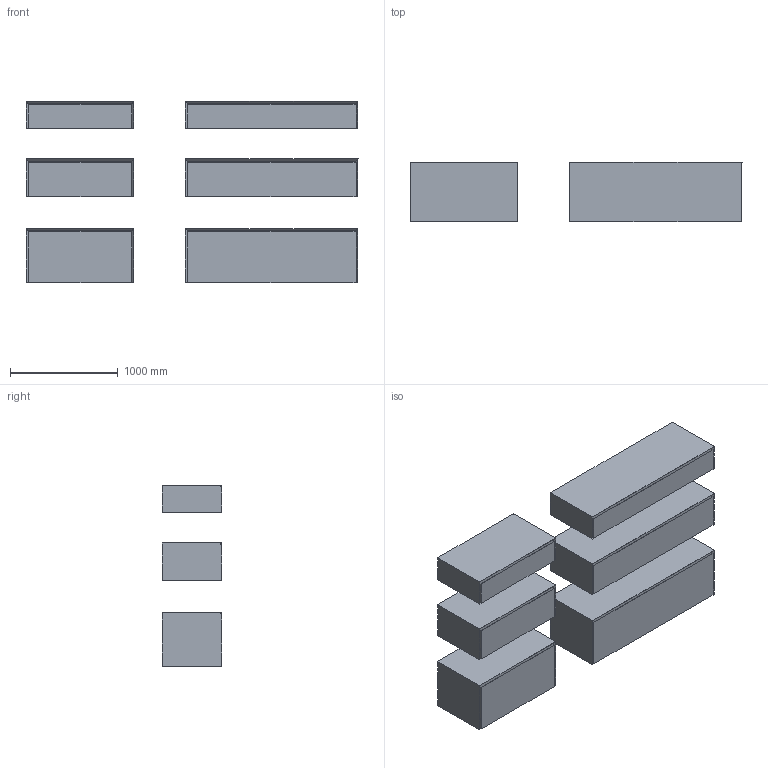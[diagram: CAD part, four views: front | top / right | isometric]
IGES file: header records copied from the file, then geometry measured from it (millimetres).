
Global section: file name: \\Archi-NAS\Comune\X GIOVANNI\MOBILI\EVERMOTION\EVERMOTION_1.igs; native system: Rhinoceros ( Feb 23 2021 ); preprocessor: Trout Lake IGES 012 Feb 23 2021; date: 230607.160001; units: millimetre
Bounding box: 3074.17 x 550 x 1676.31 mm (x, y, z)
Surface area: 46261041.3 mm2 (no closed solid volume)
Topology: 0 solids, 0 shells, 508 faces, 2876 edges, 2876 vertices
Faces by surface type: bspline 508
